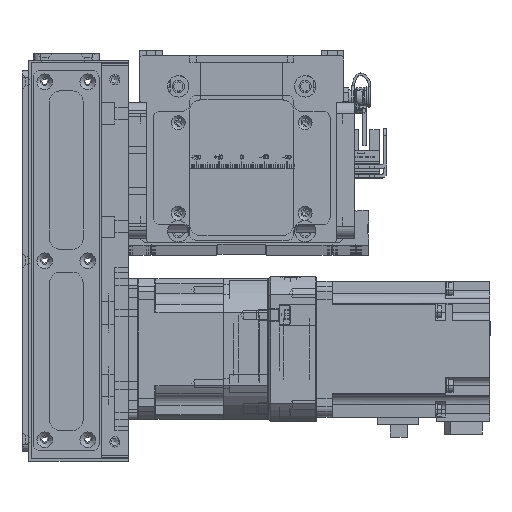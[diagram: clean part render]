
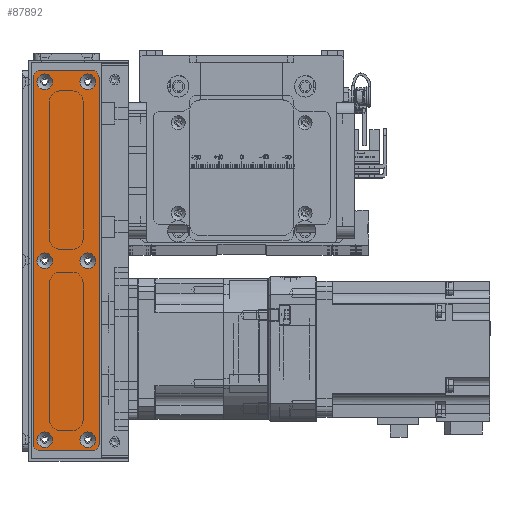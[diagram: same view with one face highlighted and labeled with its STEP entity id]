
A CAD part, top view. The second image highlights one B-rep face of the part: STEP entity #87892.
In plain terms, the highlighted planar face has unit normal (0, 0, 1).
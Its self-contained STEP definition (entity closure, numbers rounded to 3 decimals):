
#3386=FACE_BOUND('',#13224,.T.);
#3387=FACE_BOUND('',#13225,.T.);
#3388=FACE_BOUND('',#13226,.T.);
#3389=FACE_BOUND('',#13227,.T.);
#3390=FACE_BOUND('',#13228,.T.);
#3391=FACE_BOUND('',#13229,.T.);
#7940=FACE_OUTER_BOUND('',#13223,.T.);
#13223=EDGE_LOOP('',(#80148,#80149,#80150,#80151,#80152,#80153,#80154,#80155));
#13224=EDGE_LOOP('',(#80156));
#13225=EDGE_LOOP('',(#80157));
#13226=EDGE_LOOP('',(#80158));
#13227=EDGE_LOOP('',(#80159));
#13228=EDGE_LOOP('',(#80160));
#13229=EDGE_LOOP('',(#80161));
#15671=CIRCLE('',#95896,3.45);
#15674=CIRCLE('',#95901,3.45);
#15677=CIRCLE('',#95906,3.45);
#15680=CIRCLE('',#95911,3.45);
#15683=CIRCLE('',#95916,3.45);
#15686=CIRCLE('',#95921,3.45);
#15693=CIRCLE('',#95931,3.);
#15694=CIRCLE('',#95934,3.);
#15695=CIRCLE('',#95937,3.);
#15696=CIRCLE('',#95940,3.);
#25030=LINE('',#149488,#34373);
#25033=LINE('',#149496,#34376);
#25036=LINE('',#149504,#34379);
#25039=LINE('',#149511,#34382);
#34373=VECTOR('',#120024,10.);
#34376=VECTOR('',#120033,10.);
#34379=VECTOR('',#120042,10.);
#34382=VECTOR('',#120051,10.);
#42667=VERTEX_POINT('',#149404);
#42670=VERTEX_POINT('',#149414);
#42673=VERTEX_POINT('',#149424);
#42676=VERTEX_POINT('',#149434);
#42679=VERTEX_POINT('',#149444);
#42682=VERTEX_POINT('',#149454);
#42693=VERTEX_POINT('',#149481);
#42694=VERTEX_POINT('',#149483);
#42695=VERTEX_POINT('',#149487);
#42696=VERTEX_POINT('',#149491);
#42697=VERTEX_POINT('',#149495);
#42698=VERTEX_POINT('',#149499);
#42699=VERTEX_POINT('',#149503);
#42700=VERTEX_POINT('',#149507);
#55134=EDGE_CURVE('',#42667,#42667,#15671,.T.);
#55139=EDGE_CURVE('',#42670,#42670,#15674,.T.);
#55144=EDGE_CURVE('',#42673,#42673,#15677,.T.);
#55149=EDGE_CURVE('',#42676,#42676,#15680,.T.);
#55154=EDGE_CURVE('',#42679,#42679,#15683,.T.);
#55159=EDGE_CURVE('',#42682,#42682,#15686,.T.);
#55173=EDGE_CURVE('',#42694,#42693,#15693,.T.);
#55175=EDGE_CURVE('',#42695,#42694,#25030,.T.);
#55177=EDGE_CURVE('',#42696,#42695,#15694,.T.);
#55179=EDGE_CURVE('',#42697,#42696,#25033,.T.);
#55181=EDGE_CURVE('',#42698,#42697,#15695,.T.);
#55183=EDGE_CURVE('',#42699,#42698,#25036,.T.);
#55185=EDGE_CURVE('',#42700,#42699,#15696,.T.);
#55187=EDGE_CURVE('',#42693,#42700,#25039,.T.);
#80148=ORIENTED_EDGE('',*,*,#55187,.T.);
#80149=ORIENTED_EDGE('',*,*,#55185,.T.);
#80150=ORIENTED_EDGE('',*,*,#55183,.T.);
#80151=ORIENTED_EDGE('',*,*,#55181,.T.);
#80152=ORIENTED_EDGE('',*,*,#55179,.T.);
#80153=ORIENTED_EDGE('',*,*,#55177,.T.);
#80154=ORIENTED_EDGE('',*,*,#55175,.T.);
#80155=ORIENTED_EDGE('',*,*,#55173,.T.);
#80156=ORIENTED_EDGE('',*,*,#55134,.T.);
#80157=ORIENTED_EDGE('',*,*,#55139,.T.);
#80158=ORIENTED_EDGE('',*,*,#55144,.T.);
#80159=ORIENTED_EDGE('',*,*,#55149,.T.);
#80160=ORIENTED_EDGE('',*,*,#55154,.T.);
#80161=ORIENTED_EDGE('',*,*,#55159,.T.);
#83343=PLANE('',#95942);
#87892=ADVANCED_FACE('',(#7940,#3386,#3387,#3388,#3389,#3390,#3391),#83343,
 .T.);
#95896=AXIS2_PLACEMENT_3D('',#149405,#119932,#119933);
#95901=AXIS2_PLACEMENT_3D('',#149415,#119944,#119945);
#95906=AXIS2_PLACEMENT_3D('',#149425,#119956,#119957);
#95911=AXIS2_PLACEMENT_3D('',#149435,#119968,#119969);
#95916=AXIS2_PLACEMENT_3D('',#149445,#119980,#119981);
#95921=AXIS2_PLACEMENT_3D('',#149455,#119992,#119993);
#95931=AXIS2_PLACEMENT_3D('',#149484,#120019,#120020);
#95934=AXIS2_PLACEMENT_3D('',#149492,#120028,#120029);
#95937=AXIS2_PLACEMENT_3D('',#149500,#120037,#120038);
#95940=AXIS2_PLACEMENT_3D('',#149508,#120046,#120047);
#95942=AXIS2_PLACEMENT_3D('',#149512,#120052,#120053);
#119932=DIRECTION('center_axis',(0.,0.,-1.));
#119933=DIRECTION('ref_axis',(1.,0.,0.));
#119944=DIRECTION('center_axis',(0.,0.,-1.));
#119945=DIRECTION('ref_axis',(1.,0.,0.));
#119956=DIRECTION('center_axis',(0.,0.,-1.));
#119957=DIRECTION('ref_axis',(1.,0.,0.));
#119968=DIRECTION('center_axis',(0.,0.,-1.));
#119969=DIRECTION('ref_axis',(1.,0.,0.));
#119980=DIRECTION('center_axis',(0.,0.,-1.));
#119981=DIRECTION('ref_axis',(1.,0.,0.));
#119992=DIRECTION('center_axis',(0.,0.,-1.));
#119993=DIRECTION('ref_axis',(1.,0.,0.));
#120019=DIRECTION('center_axis',(0.,0.,1.));
#120020=DIRECTION('ref_axis',(-1.,0.,0.));
#120024=DIRECTION('',(0.,1.,0.));
#120028=DIRECTION('center_axis',(0.,0.,1.));
#120029=DIRECTION('ref_axis',(0.,1.,0.));
#120033=DIRECTION('',(1.,0.,0.));
#120037=DIRECTION('center_axis',(0.,0.,1.));
#120038=DIRECTION('ref_axis',(1.,0.,0.));
#120042=DIRECTION('',(0.,-1.,0.));
#120046=DIRECTION('center_axis',(0.,0.,1.));
#120047=DIRECTION('ref_axis',(0.,-1.,0.));
#120051=DIRECTION('',(-1.,0.,0.));
#120052=DIRECTION('center_axis',(0.,0.,1.));
#120053=DIRECTION('ref_axis',(1.,0.,0.));
#149404=CARTESIAN_POINT('',(-3.45,9.5,1.5));
#149405=CARTESIAN_POINT('Origin',(0.,9.5,1.5));
#149414=CARTESIAN_POINT('',(75.55,-9.5,1.5));
#149415=CARTESIAN_POINT('Origin',(79.,-9.5,1.5));
#149424=CARTESIAN_POINT('',(-82.45,9.5,1.5));
#149425=CARTESIAN_POINT('Origin',(-79.,9.5,1.5));
#149434=CARTESIAN_POINT('',(75.55,9.5,1.5));
#149435=CARTESIAN_POINT('Origin',(79.,9.5,1.5));
#149444=CARTESIAN_POINT('',(-82.45,-9.5,1.5));
#149445=CARTESIAN_POINT('Origin',(-79.,-9.5,1.5));
#149454=CARTESIAN_POINT('',(-3.45,-9.5,1.5));
#149455=CARTESIAN_POINT('Origin',(0.,-9.5,1.5));
#149481=CARTESIAN_POINT('',(81.,14.5,1.5));
#149483=CARTESIAN_POINT('',(84.,11.5,1.5));
#149484=CARTESIAN_POINT('Origin',(81.,11.5,1.5));
#149487=CARTESIAN_POINT('',(84.,-11.5,1.5));
#149488=CARTESIAN_POINT('',(84.,11.5,1.5));
#149491=CARTESIAN_POINT('',(81.,-14.5,1.5));
#149492=CARTESIAN_POINT('Origin',(81.,-11.5,1.5));
#149495=CARTESIAN_POINT('',(-81.,-14.5,1.5));
#149496=CARTESIAN_POINT('',(81.,-14.5,1.5));
#149499=CARTESIAN_POINT('',(-84.,-11.5,1.5));
#149500=CARTESIAN_POINT('Origin',(-81.,-11.5,1.5));
#149503=CARTESIAN_POINT('',(-84.,11.5,1.5));
#149504=CARTESIAN_POINT('',(-84.,-11.5,1.5));
#149507=CARTESIAN_POINT('',(-81.,14.5,1.5));
#149508=CARTESIAN_POINT('Origin',(-81.,11.5,1.5));
#149511=CARTESIAN_POINT('',(-81.,14.5,1.5));
#149512=CARTESIAN_POINT('Origin',(0.,0.,
1.5));
